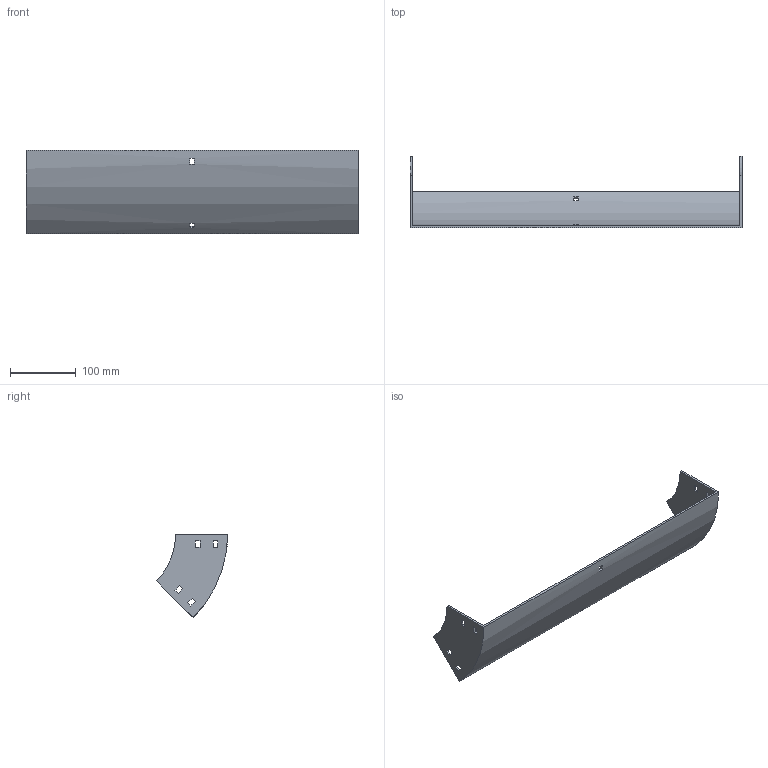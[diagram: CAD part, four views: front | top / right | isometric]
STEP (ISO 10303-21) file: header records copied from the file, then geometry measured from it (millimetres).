
FILE_DESCRIPTION (( 'STEP AP214' ), '1' );
FILE_NAME ('31B1C500.step', '2025-02-21T09:47:52', ( '' ), ( '' ), 'SwSTEP 2.0', 'SolidWorks 2023', '' );
FILE_SCHEMA (( 'AUTOMOTIVE_DESIGN' ));
Length unit declared in the file: millimetre
Products named in the file (1): 31B1C500
Bounding box: 504 x 108.29 x 126.57 mm (x, y, z)
Volume: 300376 mm3; surface area: 177957.8 mm2
Topology: 1 solids, 1 shells, 50 faces, 144 edges, 96 vertices
Faces by surface type: plane 46, cylinder 4
Entity records: 1687 total; most frequent: CARTESIAN_POINT 291, ORIENTED_EDGE 288, DIRECTION 262, EDGE_CURVE 144, VECTOR 128, LINE 128, VERTEX_POINT 96, EDGE_LOOP 70
